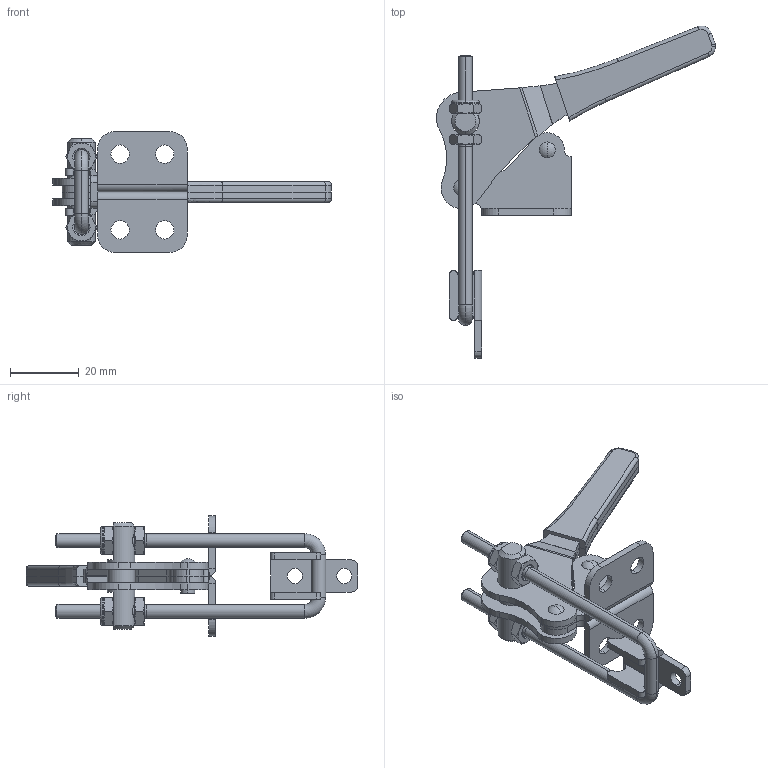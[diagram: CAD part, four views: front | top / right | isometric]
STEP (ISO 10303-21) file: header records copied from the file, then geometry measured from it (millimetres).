
FILE_DESCRIPTION (( 'STEP AP203' ), '1' );
FILE_NAME ('GH- 40324.STEP', '2012-03-28T01:02:25', ( 'user' ), ( '' ), 'SwSTEP 2.0', 'SolidWorks 2008', '' );
FILE_SCHEMA (( 'CONFIG_CONTROL_DESIGN' ));
Length unit declared in the file: millimetre
Products named in the file (12): 44032446_預設; 44032444_預設; PTM4_預設; GH- 40324; 14032413_預設; 鏡射14032413_預設; 14032401_預設; 鏡射14032401_預設; 14032414_預設; Hex Nut Jam_AM_B18.2.4.5M - Hex jam nut,  M5 x 0.8 --D-N; GH-40324  3-4_預設; GH-40324  3-8_預設
Assembly tree (13 placements, depth 2):
  GH- 40324
    鏡射14032413_預設
    GH-40324  3-4_預設
    44032446_預設
    Hex Nut Jam_AM_B18.2.4.5M - Hex jam nut,  M5 x 0.8 --D-N  x2
    PTM4_預設  x2
    14032414_預設
    14032401_預設
    44032444_預設
    14032413_預設
    鏡射14032401_預設
    GH-40324  3-8_預設
Bounding box: 81 x 96.39 x 35 mm (x, y, z)
Volume: 14196.6 mm3; surface area: 15611.7 mm2
Topology: 13 solids, 13 shells, 370 faces, 863 edges, 521 vertices
Faces by surface type: cylinder 147, plane 124, cone 63, torus 18, bspline 14, sphere 4
Entity records: 10902 total; most frequent: CARTESIAN_POINT 2258, DIRECTION 1582, ORIENTED_EDGE 1494, EDGE_CURVE 747, AXIS2_PLACEMENT_3D 637, VERTEX_POINT 455, EDGE_LOOP 354, CIRCLE 319
